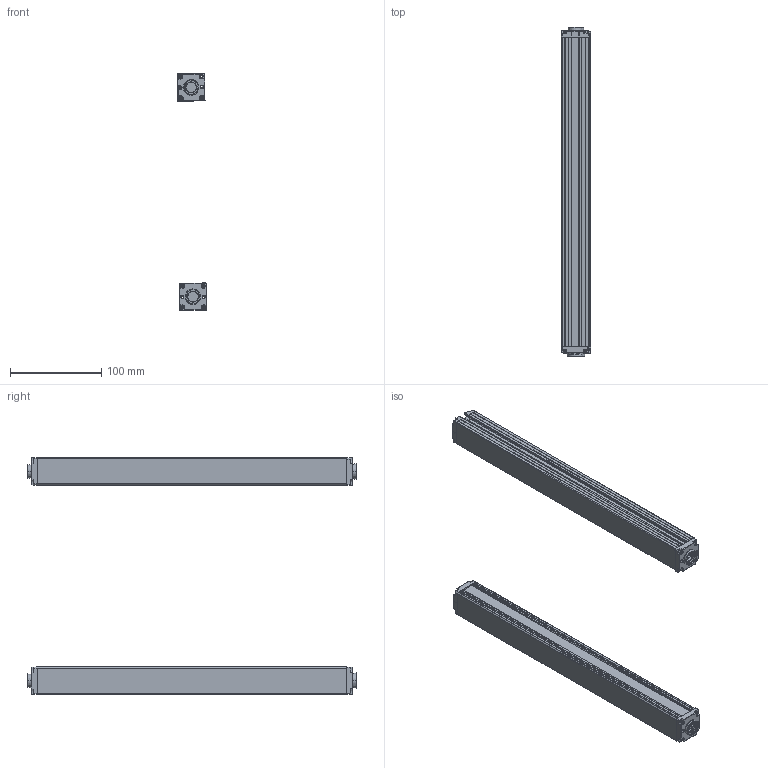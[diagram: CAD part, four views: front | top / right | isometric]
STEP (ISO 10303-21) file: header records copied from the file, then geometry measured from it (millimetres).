
FILE_DESCRIPTION (( 'STEP AP203' ), '1' );
FILE_NAME ('ZDA3210-340.STEP', '2022-08-30T03:42:56', ( 'Windows 蚚誧' ), ( 'Organization' ), 'SwSTEP 2.0', 'SolidWorks 2020', '' );
FILE_SCHEMA (( 'CONFIG_CONTROL_DESIGN' ));
Length unit declared in the file: millimetre
Products named in the file (5): 錨璃1; 錨璃10; 錨璃8; ZDA3210-340; 錨璃8 - 萵掛 (2)
Assembly tree (8 placements, depth 2):
  ZDA3210-340
    錨璃1  x2
    錨璃8  x2
    錨璃8 - 萵掛 (2)  x2
    錨璃10  x2
Bounding box: 32.36 x 361.4 x 260.35 mm (x, y, z)
Volume: 223555.8 mm3; surface area: 238713.5 mm2
Topology: 8 solids, 8 shells, 1032 faces, 2690 edges, 1668 vertices
Faces by surface type: plane 464, cylinder 310, cone 120, bspline 58, torus 48, sphere 32
Entity records: 17901 total; most frequent: CARTESIAN_POINT 4731, ORIENTED_EDGE 2666, DIRECTION 2616, EDGE_CURVE 1333, AXIS2_PLACEMENT_3D 894, VERTEX_POINT 834, LINE 828, VECTOR 828
